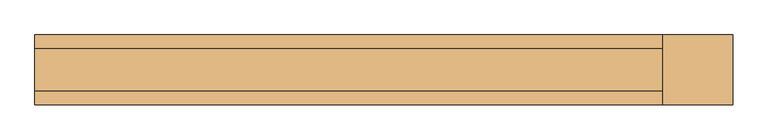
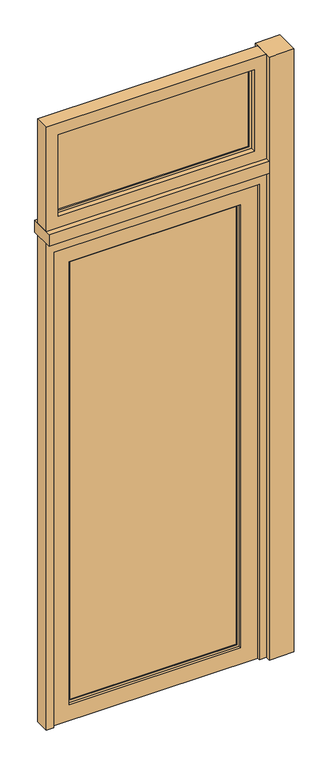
"""IFC4 building model written with IfcOpenShell, lengths in millimetres: door geometry, ARQ-PU-EX-80X260-Alu-A2 : ARQ-PU-EX-80X260-Alu-A2."""

from ifc_helpers import new_model, si_unit, frame, origin, origin_with_axes, place, context, project, spatial, polyline, outline, extrude, source, transform, mapped, element, save


def door_f6aa89b4(model_context):
    return source(origin(), model_context, "Body", "SweptSolid", [
        extrude(outline(polyline([(2050.0, -470.0), (0.0, -470.0), (0.0, 370.0), (2050.0, 370.0), (2050.0, -470.0)]), holes=[polyline([(1980.0, -400.0), (1980.0, 300.0), (70.0, 300.0), (70.0, -400.0), (1980.0, -400.0)])]), frame((0.0, -20.0, 0.0), z_axis=(0.0, 1.0, 0.0), x_axis=(0.0, 0.0, 1.0)), (0.0, 0.0, 1.0), 40.0),
        extrude(outline(polyline([(400.0, 50.0), (400.0, -50.0), (-500.0, -50.0), (-500.0, 50.0), (400.0, 50.0)])), frame((0.0, 0.0, 2100.0), z_axis=(0.0, 0.0, 1.0), x_axis=(1.0, 0.0, 0.0)), (0.0, 0.0, 1.0), 50.0),
        extrude(outline(polyline([(290.0, 5.0), (290.0, -5.0), (-390.0, -5.0), (-390.0, 5.0), (290.0, 5.0)])), frame((0.0, 0.0, 80.0), z_axis=(0.0, 0.0, 1.0), x_axis=(1.0, 0.0, 0.0)), (0.0, 0.0, 1.0), 1890.0),
        extrude(outline(polyline([(340.0, 5.0), (340.0, -5.0), (-440.0, -5.0), (-440.0, 5.0), (340.0, 5.0)])), frame((0.0, 0.0, 2210.0), z_axis=(0.0, 0.0, 1.0), x_axis=(1.0, 0.0, 0.0)), (0.0, 0.0, 1.0), 330.0),
        extrude(outline(polyline([(1980.0, -400.0), (70.0, -400.0), (70.0, 300.0), (1980.0, 300.0), (1980.0, -400.0)]), holes=[polyline([(1970.0, -390.0), (1970.0, 290.0), (80.0, 290.0), (80.0, -390.0), (1970.0, -390.0)])]), frame((0.0, -10.0, 0.0), z_axis=(0.0, 1.0, 0.0), x_axis=(0.0, 0.0, 1.0)), (0.0, 0.0, 1.0), 20.0),
        extrude(outline(polyline([(2550.0, -450.0), (2200.0, -450.0), (2200.0, 350.0), (2550.0, 350.0), (2550.0, -450.0)]), holes=[polyline([(2540.0, -440.0), (2540.0, 340.0), (2210.0, 340.0), (2210.0, -440.0), (2540.0, -440.0)])]), frame((0.0, -10.0, 0.0), z_axis=(0.0, 1.0, 0.0), x_axis=(0.0, 0.0, 1.0)), (0.0, 0.0, 1.0), 20.0),
        extrude(outline(polyline([(500.0, 50.0), (500.0, -50.0), (400.0, -50.0), (400.0, 50.0), (500.0, 50.0)])), origin_with_axes(), (0.0, 0.0, 1.0), 2600.0),
        extrude(outline(polyline([(2600.0, -500.0), (2150.0, -500.0), (2150.0, 400.0), (2600.0, 400.0), (2600.0, -500.0)]), holes=[polyline([(2550.0, -450.0), (2550.0, 350.0), (2200.0, 350.0), (2200.0, -450.0), (2550.0, -450.0)])]), frame((0.0, -30.0, 0.0), z_axis=(0.0, 1.0, 0.0), x_axis=(0.0, 0.0, 1.0)), (0.0, 0.0, 1.0), 60.0),
        extrude(outline(polyline([(2100.0, -500.0), (0.0, -500.0), (0.0, -470.0), (2050.0, -470.0), (2050.0, 370.0), (0.0, 370.0), (0.0, 400.0), (2100.0, 400.0), (2100.0, -500.0)])), frame((0.0, -30.0, 0.0), z_axis=(0.0, 1.0, 0.0), x_axis=(0.0, 0.0, 1.0)), (0.0, 0.0, 1.0), 60.0),
    ])


if __name__ == "__main__":
    model = new_model("IFC4")
    model_context = context("Model", 3, world=origin())
    ifc_project = project(units=[si_unit("LENGTHUNIT", "METRE", prefix="MILLI")], contexts=[model_context])
    site = spatial("IfcSite", under=ifc_project)
    building = spatial("IfcBuilding", under=site)
    placement = place(None, origin())
    door_shape = door_f6aa89b4(model_context)
    element("IfcDoor", 1, ObjectType="ARQ-PU-EX-80X260-Alu-A2 : ARQ-PU-EX-80X260-Alu-A2", at=placement, inside=building, context=model_context, shape_type="MappedRepresentation", body=[
        mapped(door_shape, transform((0.0, 0.0, 0.0), x_axis=(1.0, 0.0, 0.0), y_axis=(0.0, 1.0, 0.0), z_axis=(0.0, 0.0, 1.0))),
    ])
    save(model, "model.ifc")
